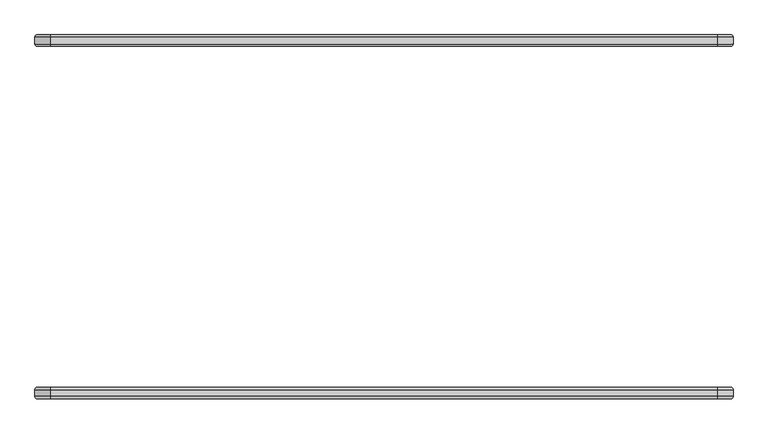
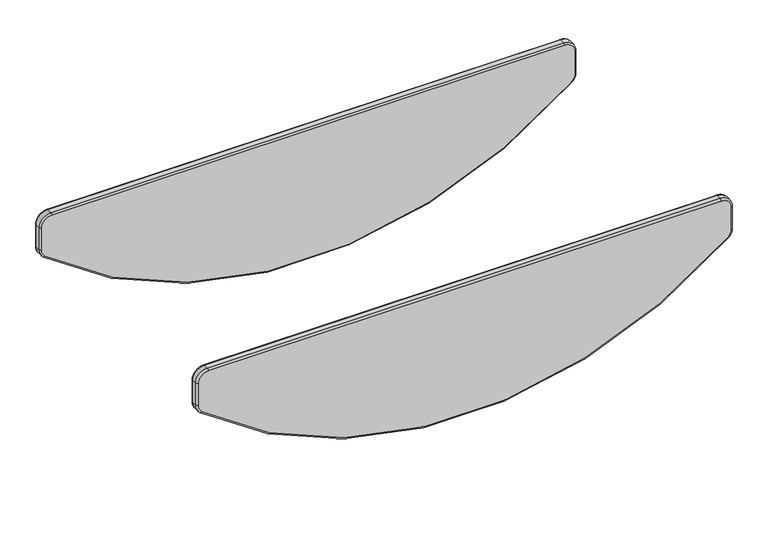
"""IFC4 building model written with IfcOpenShell, lengths in millimetres: furniture geometry, SSL-Childcraft_Outdoor-Rocking_Boat : 2163503."""

from ifc_helpers import new_model, si_unit, point, frame, origin, place, context, project, spatial, circle_curve, ellipse_curve, trimmed, source, transform, mapped, element, save
from ifc_brep_helpers import plane_surface, cylinder_surface, revolved_surface, advanced_brep


def furniture_0a677c5e(model_context):
    return source(origin(), model_context, "Body", "AdvancedBrep", [
        advanced_brep(
        [(558.8, 285.75, 301.0671507), (-558.8, 285.75, 301.0671507), (-580.4671507, 285.75, 279.4), (-580.4671507, 285.75, 228.47336), (-572.7109364, 285.75, 211.861579), (572.7109364, 285.75, 211.861579), (580.4671507, 285.75, 228.47336), (580.4671507, 285.75, 279.4), (-580.3517377, 304.8, 228.47336), (-580.3517377, 304.8, 279.4), (-558.8, 304.8, 300.9517377), (558.8, 304.8, 300.9517377), (580.3517377, 304.8, 279.4), (580.3517377, 304.8, 228.47336), (572.636838, 304.8, 211.9500639), (-572.636838, 304.8, 211.9500639), (584.2, 300.9517377, 279.4), (558.8, 300.9517377, 304.8), (558.8, 289.4828493, 304.8), (584.2, 289.4828493, 279.4), (584.2, 289.4828493, 228.47336), (584.2, 300.9517377, 228.47336), (575.1075335, 289.4828493, 208.9996764), (575.1075335, 300.9517377, 208.9996764), (-575.1075335, 289.4828493, 208.9996764), (-575.1075335, 300.9517377, 208.9996764), (-584.2, 289.4828493, 228.47336), (-584.2, 300.9517377, 228.47336), (-584.2, 289.4828493, 279.4), (-584.2, 300.9517377, 279.4), (-558.8, 289.4828493, 304.8), (-558.8, 300.9517377, 304.8)],
        [
            (0, 1),
            (1, 2, circle_curve(frame((-558.8, 285.75, 279.4), z_axis=(0.0, -1.0, 0.0), x_axis=(-1.0, 0.0, 0.0)), 21.6671507)),
            (2, 3),
            (3, 4, circle_curve(frame((-558.8, 285.75, 228.47336), z_axis=(0.0, -1.0, 0.0), x_axis=(-0.64202887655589, 0.0, -0.76668045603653)), 21.6671507)),
            (4, 5, circle_curve(frame((0.0, 285.75, 895.7658362), z_axis=(0.0, -1.0, 0.0), x_axis=(0.6420288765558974, 0.0, -0.766680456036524)), 892.0329869)),
            (5, 6, circle_curve(frame((558.8, 285.75, 228.47336), z_axis=(0.0, -1.0, 0.0), x_axis=(1.0, 0.0, 0.0)), 21.6671507)),
            (6, 7),
            (7, 0, circle_curve(frame((558.8, 285.75, 279.4), z_axis=(0.0, -1.0, 0.0), x_axis=(0.0, 0.0, 1.0)), 21.6671507)),
            (8, 9),
            (9, 10, circle_curve(frame((-558.8, 304.8, 279.4), z_axis=(0.0, 1.0, 0.0), x_axis=(-1.0, 0.0, 0.0)), 21.5517377)),
            (10, 11),
            (11, 12, circle_curve(frame((558.8, 304.8, 279.4), z_axis=(0.0, 1.0, 0.0), x_axis=(0.0, 0.0, 1.0)), 21.5517377)),
            (12, 13),
            (13, 14, circle_curve(frame((558.8, 304.8, 228.47336), z_axis=(0.0, 1.0, 0.0), x_axis=(1.0, 0.0, 0.0)), 21.5517377)),
            (14, 15, circle_curve(frame((0.0, 304.8, 895.7658362), z_axis=(0.0, 1.0, 0.0), x_axis=(0.6420288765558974, 0.0, -0.766680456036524)), 891.9175739)),
            (15, 8, circle_curve(frame((-558.8, 304.8, 228.47336), z_axis=(0.0, 1.0, 0.0), x_axis=(-0.64202887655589, 0.0, -0.76668045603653)), 21.5517377)),
            (16, 17, circle_curve(frame((558.8, 300.9517377, 279.4), z_axis=(0.0, -1.0, 0.0), x_axis=(0.0, 0.0, 1.0)), 25.4)),
            (17, 18),
            (18, 19, circle_curve(frame((558.8, 289.4828493, 279.4), z_axis=(0.0, 1.0, 0.0), x_axis=(0.0, 0.0, 1.0)), 25.4)),
            (19, 16),
            (19, 20),
            (20, 21),
            (21, 16),
            (20, 22, circle_curve(frame((558.8, 289.4828493, 228.47336), z_axis=(0.0, 1.0, 0.0), x_axis=(1.0, 0.0, 0.0)), 25.4)),
            (22, 23),
            (23, 21, circle_curve(frame((558.8, 300.9517377, 228.47336), z_axis=(0.0, -1.0, 0.0), x_axis=(1.0, 0.0, 0.0)), 25.4)),
            (22, 24, circle_curve(frame((0.0, 289.4828493, 895.7658362), z_axis=(0.0, 1.0, 0.0), x_axis=(0.6420288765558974, 0.0, -0.766680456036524)), 895.7658362)),
            (24, 25),
            (25, 23, circle_curve(frame((0.0, 300.9517377, 895.7658362), z_axis=(0.0, -1.0, 0.0), x_axis=(0.6420288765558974, 0.0, -0.766680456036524)), 895.7658362)),
            (24, 26, circle_curve(frame((-558.8, 289.4828493, 228.47336), z_axis=(0.0, 1.0, 0.0), x_axis=(-0.64202887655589, 0.0, -0.76668045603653)), 25.4)),
            (26, 27),
            (27, 25, circle_curve(frame((-558.8, 300.9517377, 228.47336), z_axis=(0.0, -1.0, 0.0), x_axis=(-0.64202887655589, 0.0, -0.76668045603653)), 25.4)),
            (26, 28),
            (28, 29),
            (29, 27),
            (28, 30, circle_curve(frame((-558.8, 289.4828493, 279.4), z_axis=(0.0, 1.0, 0.0), x_axis=(-1.0, 0.0, 0.0)), 25.4)),
            (30, 31),
            (31, 29, circle_curve(frame((-558.8, 300.9517377, 279.4), z_axis=(0.0, -1.0, 0.0), x_axis=(-1.0, 0.0, 0.0)), 25.4)),
            (17, 31),
            (30, 18),
            (16, 12, circle_curve(frame((580.3517377, 300.9517377, 279.4), z_axis=(0.0, 0.0, 1.0), x_axis=(1.0, 0.0, 0.0)), 3.8482623)),
            (11, 17, circle_curve(frame((558.8, 300.9517377, 300.9517377), z_axis=(1.0, 0.0, 0.0), x_axis=(0.0, 0.0, 1.0)), 3.8482623)),
            (21, 13, circle_curve(frame((580.3517377, 300.9517377, 228.47336), z_axis=(0.0, 0.0, 1.0), x_axis=(1.0, 0.0, 0.0)), 3.8482623)),
            (23, 14, circle_curve(frame((572.636838, 300.9517377, 211.9500639), z_axis=(0.7666804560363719, 0.0, 0.6420288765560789), x_axis=(0.6420288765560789, 0.0, -0.7666804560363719)), 3.8482623)),
            (25, 15, circle_curve(frame((-572.636838, 300.9517377, 211.9500639), z_axis=(0.7666804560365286, 0.0, -0.6420288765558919), x_axis=(-0.6420288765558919, 0.0, -0.7666804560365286)), 3.8482623)),
            (27, 8, circle_curve(frame((-580.3517377, 300.9517377, 228.47336), z_axis=(0.0, 0.0, -0.9999999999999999), x_axis=(-0.9999999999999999, 0.0, 0.0)), 3.8482623)),
            (29, 9, circle_curve(frame((-580.3517377, 300.9517377, 279.4), z_axis=(0.0, 0.0, -1.0), x_axis=(-1.0, 0.0, 0.0)), 3.8482623)),
            (31, 10, circle_curve(frame((-558.8, 300.9517377, 300.9517377), z_axis=(-1.0, 0.0, 0.0), x_axis=(0.0, 0.0, 1.0)), 3.8482623)),
            (18, 0, circle_curve(frame((558.8, 289.4828493, 301.0671507), z_axis=(1.0, 0.0, 0.0), x_axis=(0.0, 0.0, 1.0)), 3.7328493)),
            (7, 19, circle_curve(frame((580.4671507, 289.4828493, 279.4), z_axis=(0.0, 0.0, 1.0), x_axis=(1.0, 0.0, 0.0)), 3.7328493)),
            (6, 20, circle_curve(frame((580.4671507, 289.4828493, 228.47336), z_axis=(0.0, 0.0, 1.0), x_axis=(1.0, 0.0, 0.0)), 3.7328493)),
            (5, 22, circle_curve(frame((572.7109364, 289.4828493, 211.861579), z_axis=(0.7666804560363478, 0.0, 0.6420288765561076), x_axis=(0.6420288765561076, 0.0, -0.7666804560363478)), 3.7328493)),
            (4, 24, circle_curve(frame((-572.7109364, 289.4828493, 211.861579), z_axis=(0.7666804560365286, 0.0, -0.6420288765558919), x_axis=(-0.6420288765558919, 0.0, -0.7666804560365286)), 3.7328493)),
            (3, 26, circle_curve(frame((-580.4671507, 289.4828493, 228.47336), z_axis=(0.0, 0.0, -1.0), x_axis=(-1.0, 0.0, 0.0)), 3.7328493)),
            (2, 28, circle_curve(frame((-580.4671507, 289.4828493, 279.4), z_axis=(0.0, 0.0, -1.0), x_axis=(-1.0, 0.0, 0.0)), 3.7328493)),
            (1, 30, circle_curve(frame((-558.8, 289.4828493, 301.0671507), z_axis=(-1.0, 0.0, 0.0), x_axis=(0.0, 0.0, 1.0)), 3.7328493)),
        ],
        [
            plane_surface(frame((-538.95625, 285.75, 279.4), z_axis=(0.0, -1.0, 0.0), x_axis=(0.0, 0.0, 1.0))),
            plane_surface(frame((-538.95625, 304.8, 279.4), z_axis=(0.0, 1.0, 0.0), x_axis=(0.0, 0.0, -1.0))),
            cylinder_surface(frame((558.8, 0.0, 279.4), z_axis=(0.0, 1.0, 0.0), x_axis=(0.0, 0.0, 1.0)), 25.4),
            plane_surface(frame((584.2, 289.4828493, 279.4), z_axis=(1.0, 0.0, 0.0), x_axis=(0.0, 0.0, -1.0))),
            cylinder_surface(frame((558.8, 0.0, 228.47336), z_axis=(0.0, 1.0, 0.0), x_axis=(1.0, 0.0, 0.0)), 25.4),
            cylinder_surface(frame((0.0, 0.0, 895.7658362), z_axis=(0.0, 1.0, 0.0), x_axis=(0.6420288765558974, 0.0, -0.766680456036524)), 895.7658362),
            cylinder_surface(frame((-558.8, 0.0, 228.47336), z_axis=(0.0, 1.0, 0.0), x_axis=(-0.64202887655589, 0.0, -0.76668045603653)), 25.4),
            plane_surface(frame((-584.2, 289.4828493, 228.47336), z_axis=(-1.0, 0.0, 0.0), x_axis=(0.0, 0.0, 1.0))),
            cylinder_surface(frame((-558.8, 0.0, 279.4), z_axis=(0.0, 1.0, 0.0), x_axis=(-1.0, 0.0, 0.0)), 25.4),
            plane_surface(frame((-558.8, 289.4828493, 304.8), z_axis=(0.0, 0.0, 1.0), x_axis=(1.0, 0.0, 0.0))),
            revolved_surface(trimmed(ellipse_curve(frame((558.8, 300.9517377, 300.9517377), z_axis=(-1.0, 0.0, 0.0), x_axis=(0.0, 0.0, 1.0)), 3.8482623, 3.8482623), [point((558.8, 300.9517377, 304.8))], [point((558.8, 304.8, 300.9517377))], True, "CARTESIAN"), (558.8, 0.0, 279.4), (0.0, 1.0, 0.0)),
            cylinder_surface(frame((580.3517377, 300.9517377, 279.4), z_axis=(0.0, 0.0, 1.0), x_axis=(1.0, 0.0, 0.0)), 3.8482623),
            revolved_surface(trimmed(ellipse_curve(frame((580.3517377, 300.9517377, 228.47336), z_axis=(0.0, 0.0, 1.0), x_axis=(1.0, 0.0, 0.0)), 3.8482623, 3.8482623), [point((584.2, 300.9517377, 228.47336))], [point((580.3517377, 304.8, 228.47336))], True, "CARTESIAN"), (558.8, 0.0, 228.47336), (0.0, 1.0, 0.0)),
            revolved_surface(trimmed(ellipse_curve(frame((572.636838, 300.9517377, 211.9500639), z_axis=(0.7666804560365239, 0.0, 0.6420288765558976), x_axis=(0.6420288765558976, 0.0, -0.7666804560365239)), 3.8482623, 3.8482623), [point((575.1075335, 300.9517377, 208.9996764))], [point((572.636838, 304.8, 211.9500639))], True, "CARTESIAN"), (0.0, 0.0, 895.7658362), (0.0, 1.0, 0.0)),
            revolved_surface(trimmed(ellipse_curve(frame((-572.636838, 300.9517377, 211.9500639), z_axis=(0.7666804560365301, 0.0, -0.6420288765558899), x_axis=(-0.6420288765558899, 0.0, -0.7666804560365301)), 3.8482623, 3.8482623), [point((-575.1075335, 300.9517377, 208.9996764))], [point((-572.636838, 304.8, 211.9500639))], True, "CARTESIAN"), (-558.8, 0.0, 228.47336), (0.0, 1.0, 0.0)),
            cylinder_surface(frame((-580.3517377, 300.9517377, 228.47336), z_axis=(0.0, 0.0, -1.0), x_axis=(-1.0, 0.0, 0.0)), 3.8482623),
            revolved_surface(trimmed(ellipse_curve(frame((-580.3517377, 300.9517377, 279.4), z_axis=(0.0, 0.0, -1.0), x_axis=(-1.0, 0.0, 0.0)), 3.8482623, 3.8482623), [point((-584.2, 300.9517377, 279.4))], [point((-580.3517377, 304.8, 279.4))], True, "CARTESIAN"), (-558.8, 0.0, 279.4), (0.0, 1.0, 0.0)),
            cylinder_surface(frame((-558.8, 300.9517377, 300.9517377), z_axis=(-1.0, 0.0, 0.0), x_axis=(0.0, 0.0, 1.0)), 3.8482623),
            revolved_surface(trimmed(ellipse_curve(frame((558.8, 289.4828493, 301.0671507), z_axis=(-1.0, 0.0, 0.0), x_axis=(0.0, 0.0, 1.0)), 3.7328493, 3.7328493), [point((558.8, 285.75, 301.0671507))], [point((558.8, 289.4828493, 304.8))], True, "CARTESIAN"), (558.8, 0.0, 279.4), (0.0, 1.0, 0.0)),
            cylinder_surface(frame((580.4671507, 289.4828493, 279.4), z_axis=(0.0, 0.0, 1.0), x_axis=(1.0, 0.0, 0.0)), 3.7328493),
            revolved_surface(trimmed(ellipse_curve(frame((580.4671507, 289.4828493, 228.47336), z_axis=(0.0, 0.0, 1.0), x_axis=(1.0, 0.0, 0.0)), 3.7328493, 3.7328493), [point((580.4671507, 285.75, 228.47336))], [point((584.2, 289.4828493, 228.47336))], True, "CARTESIAN"), (558.8, 0.0, 228.47336), (0.0, 1.0, 0.0)),
            revolved_surface(trimmed(ellipse_curve(frame((572.7109364, 289.4828493, 211.861579), z_axis=(0.7666804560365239, 0.0, 0.6420288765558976), x_axis=(0.6420288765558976, 0.0, -0.7666804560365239)), 3.7328493, 3.7328493), [point((572.7109364, 285.75, 211.861579))], [point((575.1075335, 289.4828493, 208.9996764))], True, "CARTESIAN"), (0.0, 0.0, 895.7658362), (0.0, 1.0, 0.0)),
            revolved_surface(trimmed(ellipse_curve(frame((-572.7109364, 289.4828493, 211.861579), z_axis=(0.7666804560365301, 0.0, -0.6420288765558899), x_axis=(-0.6420288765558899, 0.0, -0.7666804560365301)), 3.7328493, 3.7328493), [point((-572.7109364, 285.75, 211.861579))], [point((-575.1075335, 289.4828493, 208.9996764))], True, "CARTESIAN"), (-558.8, 0.0, 228.47336), (0.0, 1.0, 0.0)),
            cylinder_surface(frame((-580.4671507, 289.4828493, 228.47336), z_axis=(0.0, 0.0, -1.0), x_axis=(-1.0, 0.0, 0.0)), 3.7328493),
            revolved_surface(trimmed(ellipse_curve(frame((-580.4671507, 289.4828493, 279.4), z_axis=(0.0, 0.0, -1.0), x_axis=(-1.0, 0.0, 0.0)), 3.7328493, 3.7328493), [point((-580.4671507, 285.75, 279.4))], [point((-584.2, 289.4828493, 279.4))], True, "CARTESIAN"), (-558.8, 0.0, 279.4), (0.0, 1.0, 0.0)),
            cylinder_surface(frame((-558.8, 289.4828493, 301.0671507), z_axis=(-1.0, 0.0, 0.0), x_axis=(0.0, 0.0, 1.0)), 3.7328493),
        ],
        [
            (0, [[1, 2, 3, 4, 5, 6, 7, 8]]),
            (1, [[9, 10, 11, 12, 13, 14, 15, 16]]),
            (2, [[17, 18, 19, 20]]),
            (3, [[-20, 21, 22, 23]]),
            (4, [[-22, 24, 25, 26]]),
            (5, [[-25, 27, 28, 29]]),
            (6, [[-28, 30, 31, 32]]),
            (7, [[-31, 33, 34, 35]]),
            (8, [[-34, 36, 37, 38]]),
            (9, [[-18, 39, -37, 40]]),
            (10, [[-17, 41, -12, 42]]),
            (11, [[-23, 43, -13, -41]]),
            (12, [[-26, 44, -14, -43]]),
            (13, [[-29, 45, -15, -44]]),
            (14, [[-32, 46, -16, -45]]),
            (15, [[-35, 47, -9, -46]]),
            (16, [[-38, 48, -10, -47]]),
            (17, [[-39, -42, -11, -48]]),
            (18, [[-19, 49, -8, 50]]),
            (19, [[-21, -50, -7, 51]]),
            (20, [[-24, -51, -6, 52]]),
            (21, [[-27, -52, -5, 53]]),
            (22, [[-30, -53, -4, 54]]),
            (23, [[-33, -54, -3, 55]]),
            (24, [[-36, -55, -2, 56]]),
            (25, [[-40, -56, -1, -49]]),
        ],
    ),
        advanced_brep(
        [(580.4671507, -285.75, 279.4), (558.8, -285.75, 301.0671507), (558.8, -289.4828493, 304.8), (584.2, -289.4828493, 279.4), (584.2, -300.9517377, 279.4), (558.8, -300.9517377, 304.8), (558.8, -304.8, 300.9517377), (580.3517377, -304.8, 279.4), (584.2, -289.4828493, 228.47336), (580.4671507, -285.75, 228.47336), (580.3517377, -304.8, 228.47336), (584.2, -300.9517377, 228.47336), (575.1075335, -289.4828493, 208.9996764), (572.7109364, -285.75, 211.861579), (572.636838, -304.8, 211.9500639), (575.1075335, -300.9517377, 208.9996764), (-575.1075335, -289.4828493, 208.9996764), (-572.7109364, -285.75, 211.861579), (-572.636838, -304.8, 211.9500639), (-575.1075335, -300.9517377, 208.9996764), (-584.2, -289.4828493, 228.47336), (-580.4671507, -285.75, 228.47336), (-580.3517377, -304.8, 228.47336), (-584.2, -300.9517377, 228.47336), (-584.2, -289.4828493, 279.4), (-580.4671507, -285.75, 279.4), (-580.3517377, -304.8, 279.4), (-584.2, -300.9517377, 279.4), (-558.8, -289.4828493, 304.8), (-558.8, -285.75, 301.0671507), (-558.8, -304.8, 300.9517377), (-558.8, -300.9517377, 304.8)],
        [
            (0, 1, circle_curve(frame((558.8, -285.75, 279.4), z_axis=(0.0, -1.0, 0.0), x_axis=(0.0, 0.0, 1.0)), 21.6671507)),
            (1, 2, circle_curve(frame((558.8, -289.4828493, 301.0671507), z_axis=(1.0, 0.0, 0.0), x_axis=(0.0, 0.0, 1.0)), 3.7328493)),
            (2, 3, circle_curve(frame((558.8, -289.4828493, 279.4), z_axis=(0.0, 1.0, 0.0), x_axis=(0.0, 0.0, 1.0)), 25.4)),
            (3, 0, circle_curve(frame((580.4671507, -289.4828493, 279.4), z_axis=(0.0, 0.0, 1.0), x_axis=(1.0, 0.0, 0.0)), 3.7328493)),
            (4, 5, circle_curve(frame((558.8, -300.9517377, 279.4), z_axis=(0.0, -1.0, 0.0), x_axis=(0.0, 0.0, 1.0)), 25.4)),
            (5, 6, circle_curve(frame((558.8, -300.9517377, 300.9517377), z_axis=(1.0, 0.0, 0.0), x_axis=(0.0, 0.0, 1.0)), 3.8482623)),
            (6, 7, circle_curve(frame((558.8, -304.8, 279.4), z_axis=(0.0, 1.0, 0.0), x_axis=(0.0, 0.0, 1.0)), 21.5517377)),
            (7, 4, circle_curve(frame((580.3517377, -300.9517377, 279.4), z_axis=(0.0, 0.0, 1.0), x_axis=(1.0, 0.0, 0.0)), 3.8482623)),
            (2, 5),
            (4, 3),
            (3, 8),
            (8, 9, circle_curve(frame((580.4671507, -289.4828493, 228.47336), z_axis=(0.0, 0.0, 1.0), x_axis=(1.0, 0.0, 0.0)), 3.7328493)),
            (9, 0),
            (7, 10),
            (10, 11, circle_curve(frame((580.3517377, -300.9517377, 228.47336), z_axis=(0.0, 0.0, 1.0), x_axis=(1.0, 0.0, 0.0)), 3.8482623)),
            (11, 4),
            (11, 8),
            (8, 12, circle_curve(frame((558.8, -289.4828493, 228.47336), z_axis=(0.0, 1.0, 0.0), x_axis=(1.0, 0.0, 0.0)), 25.4)),
            (12, 13, circle_curve(frame((572.7109364, -289.4828493, 211.861579), z_axis=(0.7666804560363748, 0.0, 0.6420288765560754), x_axis=(0.6420288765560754, 0.0, -0.7666804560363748)), 3.7328493)),
            (13, 9, circle_curve(frame((558.8, -285.75, 228.47336), z_axis=(0.0, -1.0, 0.0), x_axis=(1.0, 0.0, 0.0)), 21.6671507)),
            (10, 14, circle_curve(frame((558.8, -304.8, 228.47336), z_axis=(0.0, 1.0, 0.0), x_axis=(1.0, 0.0, 0.0)), 21.5517377)),
            (14, 15, circle_curve(frame((572.636838, -300.9517377, 211.9500639), z_axis=(0.7666804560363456, 0.0, 0.6420288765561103), x_axis=(0.6420288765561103, 0.0, -0.7666804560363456)), 3.8482623)),
            (15, 11, circle_curve(frame((558.8, -300.9517377, 228.47336), z_axis=(0.0, -1.0, 0.0), x_axis=(1.0, 0.0, 0.0)), 25.4)),
            (15, 12),
            (12, 16, circle_curve(frame((0.0, -289.4828493, 895.7658362), z_axis=(0.0, 1.0, 0.0), x_axis=(0.6420288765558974, 0.0, -0.766680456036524)), 895.7658362)),
            (16, 17, circle_curve(frame((-572.7109364, -289.4828493, 211.861579), z_axis=(0.7666804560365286, 0.0, -0.6420288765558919), x_axis=(-0.6420288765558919, 0.0, -0.7666804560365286)), 3.7328493)),
            (17, 13, circle_curve(frame((0.0, -285.75, 895.7658362), z_axis=(0.0, -1.0, 0.0), x_axis=(0.6420288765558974, 0.0, -0.766680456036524)), 892.0329869)),
            (14, 18, circle_curve(frame((0.0, -304.8, 895.7658362), z_axis=(0.0, 1.0, 0.0), x_axis=(0.6420288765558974, 0.0, -0.766680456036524)), 891.9175739)),
            (18, 19, circle_curve(frame((-572.636838, -300.9517377, 211.9500639), z_axis=(0.7666804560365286, 0.0, -0.6420288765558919), x_axis=(-0.6420288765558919, 0.0, -0.7666804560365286)), 3.8482623)),
            (19, 15, circle_curve(frame((0.0, -300.9517377, 895.7658362), z_axis=(0.0, -1.0, 0.0), x_axis=(0.6420288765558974, 0.0, -0.766680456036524)), 895.7658362)),
            (19, 16),
            (16, 20, circle_curve(frame((-558.8, -289.4828493, 228.47336), z_axis=(0.0, 1.0, 0.0), x_axis=(-0.64202887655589, 0.0, -0.76668045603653)), 25.4)),
            (20, 21, circle_curve(frame((-580.4671507, -289.4828493, 228.47336), z_axis=(0.0, 0.0, -1.0), x_axis=(-1.0, 0.0, 0.0)), 3.7328493)),
            (21, 17, circle_curve(frame((-558.8, -285.75, 228.47336), z_axis=(0.0, -1.0, 0.0), x_axis=(-0.64202887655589, 0.0, -0.76668045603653)), 21.6671507)),
            (18, 22, circle_curve(frame((-558.8, -304.8, 228.47336), z_axis=(0.0, 1.0, 0.0), x_axis=(-0.64202887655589, 0.0, -0.76668045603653)), 21.5517377)),
            (22, 23, circle_curve(frame((-580.3517377, -300.9517377, 228.47336), z_axis=(0.0, 0.0, -1.0), x_axis=(-1.0, 0.0, 0.0)), 3.8482623)),
            (23, 19, circle_curve(frame((-558.8, -300.9517377, 228.47336), z_axis=(0.0, -1.0, 0.0), x_axis=(-0.64202887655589, 0.0, -0.76668045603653)), 25.4)),
            (23, 20),
            (20, 24),
            (24, 25, circle_curve(frame((-580.4671507, -289.4828493, 279.4), z_axis=(0.0, 0.0, -1.0), x_axis=(-1.0, 0.0, 0.0)), 3.7328493)),
            (25, 21),
            (22, 26),
            (26, 27, circle_curve(frame((-580.3517377, -300.9517377, 279.4), z_axis=(0.0, 0.0, -1.0), x_axis=(-1.0, 0.0, 0.0)), 3.8482623)),
            (27, 23),
            (27, 24),
            (24, 28, circle_curve(frame((-558.8, -289.4828493, 279.4), z_axis=(0.0, 1.0, 0.0), x_axis=(-1.0, 0.0, 0.0)), 25.4)),
            (28, 29, circle_curve(frame((-558.8, -289.4828493, 301.0671507), z_axis=(-1.0, 0.0, 0.0), x_axis=(0.0, 0.0, 1.0)), 3.7328493)),
            (29, 25, circle_curve(frame((-558.8, -285.75, 279.4), z_axis=(0.0, -1.0, 0.0), x_axis=(-1.0, 0.0, 0.0)), 21.6671507)),
            (26, 30, circle_curve(frame((-558.8, -304.8, 279.4), z_axis=(0.0, 1.0, 0.0), x_axis=(-1.0, 0.0, 0.0)), 21.5517377)),
            (30, 31, circle_curve(frame((-558.8, -300.9517377, 300.9517377), z_axis=(-1.0, 0.0, 0.0), x_axis=(0.0, 0.0, 1.0)), 3.8482623)),
            (31, 27, circle_curve(frame((-558.8, -300.9517377, 279.4), z_axis=(0.0, -1.0, 0.0), x_axis=(-1.0, 0.0, 0.0)), 25.4)),
            (31, 28),
            (1, 29),
            (28, 2),
            (6, 30),
            (5, 31),
        ],
        [
            revolved_surface(trimmed(ellipse_curve(frame((558.8, -289.4828493, 301.0671507), z_axis=(-1.0, 0.0, 0.0), x_axis=(0.0, 0.0, 1.0)), 3.7328493, 3.7328493), [point((558.8, -289.4828493, 304.8))], [point((558.8, -285.75, 301.0671507))], True, "CARTESIAN"), (558.8, 0.0, 279.4), (0.0, 1.0, 0.0)),
            revolved_surface(trimmed(ellipse_curve(frame((558.8, -300.9517377, 300.9517377), z_axis=(-1.0, 0.0, 0.0), x_axis=(0.0, 0.0, 1.0)), 3.8482623, 3.8482623), [point((558.8, -304.8, 300.9517377))], [point((558.8, -300.9517377, 304.8))], True, "CARTESIAN"), (558.8, 0.0, 279.4), (0.0, 1.0, 0.0)),
            cylinder_surface(frame((558.8, 0.0, 279.4), z_axis=(0.0, 1.0, 0.0), x_axis=(0.0, 0.0, 1.0)), 25.4),
            cylinder_surface(frame((580.4671507, -289.4828493, 279.4), z_axis=(0.0, 0.0, 1.0), x_axis=(1.0, 0.0, 0.0)), 3.7328493),
            cylinder_surface(frame((580.3517377, -300.9517377, 279.4), z_axis=(0.0, 0.0, 1.0), x_axis=(1.0, 0.0, 0.0)), 3.8482623),
            plane_surface(frame((584.2, -300.9517377, 279.4), z_axis=(1.0, 0.0, 0.0), x_axis=(0.0, 0.0, -1.0))),
            revolved_surface(trimmed(ellipse_curve(frame((580.4671507, -289.4828493, 228.47336), z_axis=(0.0, 0.0, 1.0), x_axis=(1.0, 0.0, 0.0)), 3.7328493, 3.7328493), [point((584.2, -289.4828493, 228.47336))], [point((580.4671507, -285.75, 228.47336))], True, "CARTESIAN"), (558.8, 0.0, 228.47336), (0.0, 1.0, 0.0)),
            revolved_surface(trimmed(ellipse_curve(frame((580.3517377, -300.9517377, 228.47336), z_axis=(0.0, 0.0, 1.0), x_axis=(1.0, 0.0, 0.0)), 3.8482623, 3.8482623), [point((580.3517377, -304.8, 228.47336))], [point((584.2, -300.9517377, 228.47336))], True, "CARTESIAN"), (558.8, 0.0, 228.47336), (0.0, 1.0, 0.0)),
            cylinder_surface(frame((558.8, 0.0, 228.47336), z_axis=(0.0, 1.0, 0.0), x_axis=(1.0, 0.0, 0.0)), 25.4),
            revolved_surface(trimmed(ellipse_curve(frame((572.7109364, -289.4828493, 211.861579), z_axis=(0.7666804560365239, 0.0, 0.6420288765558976), x_axis=(0.6420288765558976, 0.0, -0.7666804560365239)), 3.7328493, 3.7328493), [point((575.1075335, -289.4828493, 208.9996764))], [point((572.7109364, -285.75, 211.861579))], True, "CARTESIAN"), (0.0, 0.0, 895.7658362), (0.0, 1.0, 0.0)),
            revolved_surface(trimmed(ellipse_curve(frame((572.636838, -300.9517377, 211.9500639), z_axis=(0.7666804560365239, 0.0, 0.6420288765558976), x_axis=(0.6420288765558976, 0.0, -0.7666804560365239)), 3.8482623, 3.8482623), [point((572.636838, -304.8, 211.9500639))], [point((575.1075335, -300.9517377, 208.9996764))], True, "CARTESIAN"), (0.0, 0.0, 895.7658362), (0.0, 1.0, 0.0)),
            cylinder_surface(frame((0.0, 0.0, 895.7658362), z_axis=(0.0, 1.0, 0.0), x_axis=(0.6420288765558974, 0.0, -0.766680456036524)), 895.7658362),
            revolved_surface(trimmed(ellipse_curve(frame((-572.7109364, -289.4828493, 211.861579), z_axis=(0.7666804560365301, 0.0, -0.6420288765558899), x_axis=(-0.6420288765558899, 0.0, -0.7666804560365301)), 3.7328493, 3.7328493), [point((-575.1075335, -289.4828493, 208.9996764))], [point((-572.7109364, -285.75, 211.861579))], True, "CARTESIAN"), (-558.8, 0.0, 228.47336), (0.0, 1.0, 0.0)),
            revolved_surface(trimmed(ellipse_curve(frame((-572.636838, -300.9517377, 211.9500639), z_axis=(0.7666804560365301, 0.0, -0.6420288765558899), x_axis=(-0.6420288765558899, 0.0, -0.7666804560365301)), 3.8482623, 3.8482623), [point((-572.636838, -304.8, 211.9500639))], [point((-575.1075335, -300.9517377, 208.9996764))], True, "CARTESIAN"), (-558.8, 0.0, 228.47336), (0.0, 1.0, 0.0)),
            cylinder_surface(frame((-558.8, 0.0, 228.47336), z_axis=(0.0, 1.0, 0.0), x_axis=(-0.64202887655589, 0.0, -0.76668045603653)), 25.4),
            cylinder_surface(frame((-580.4671507, -289.4828493, 228.47336), z_axis=(0.0, 0.0, -1.0), x_axis=(-1.0, 0.0, 0.0)), 3.7328493),
            cylinder_surface(frame((-580.3517377, -300.9517377, 228.47336), z_axis=(0.0, 0.0, -1.0), x_axis=(-1.0, 0.0, 0.0)), 3.8482623),
            plane_surface(frame((-584.2, -300.9517377, 228.47336), z_axis=(-1.0, 0.0, 0.0), x_axis=(0.0, 0.0, 1.0))),
            revolved_surface(trimmed(ellipse_curve(frame((-580.4671507, -289.4828493, 279.4), z_axis=(0.0, 0.0, -1.0), x_axis=(-1.0, 0.0, 0.0)), 3.7328493, 3.7328493), [point((-584.2, -289.4828493, 279.4))], [point((-580.4671507, -285.75, 279.4))], True, "CARTESIAN"), (-558.8, 0.0, 279.4), (0.0, 1.0, 0.0)),
            revolved_surface(trimmed(ellipse_curve(frame((-580.3517377, -300.9517377, 279.4), z_axis=(0.0, 0.0, -1.0), x_axis=(-1.0, 0.0, 0.0)), 3.8482623, 3.8482623), [point((-580.3517377, -304.8, 279.4))], [point((-584.2, -300.9517377, 279.4))], True, "CARTESIAN"), (-558.8, 0.0, 279.4), (0.0, 1.0, 0.0)),
            cylinder_surface(frame((-558.8, 0.0, 279.4), z_axis=(0.0, 1.0, 0.0), x_axis=(-1.0, 0.0, 0.0)), 25.4),
            cylinder_surface(frame((-558.8, -289.4828493, 301.0671507), z_axis=(-1.0, 0.0, 0.0), x_axis=(0.0, 0.0, 1.0)), 3.7328493),
            plane_surface(frame((-558.8, -285.75, 301.0671507), z_axis=(0.0, 1.0, 0.0), x_axis=(1.0, 0.0, 0.0))),
            plane_surface(frame((-558.8, -304.8, 299.24375), z_axis=(0.0, -1.0, 0.0), x_axis=(1.0, 0.0, 0.0))),
            cylinder_surface(frame((-558.8, -300.9517377, 300.9517377), z_axis=(-1.0, 0.0, 0.0), x_axis=(0.0, 0.0, 1.0)), 3.8482623),
            plane_surface(frame((-558.8, -300.9517377, 304.8), z_axis=(0.0, 0.0, 1.0), x_axis=(1.0, 0.0, 0.0))),
        ],
        [
            (0, [[1, 2, 3, 4]]),
            (1, [[5, 6, 7, 8]]),
            (2, [[-3, 9, -5, 10]]),
            (3, [[-4, 11, 12, 13]]),
            (4, [[-8, 14, 15, 16]]),
            (5, [[-10, -16, 17, -11]]),
            (6, [[-12, 18, 19, 20]]),
            (7, [[-15, 21, 22, 23]]),
            (8, [[-17, -23, 24, -18]]),
            (9, [[-19, 25, 26, 27]]),
            (10, [[-22, 28, 29, 30]]),
            (11, [[-24, -30, 31, -25]]),
            (12, [[-26, 32, 33, 34]]),
            (13, [[-29, 35, 36, 37]]),
            (14, [[-31, -37, 38, -32]]),
            (15, [[-33, 39, 40, 41]]),
            (16, [[-36, 42, 43, 44]]),
            (17, [[-38, -44, 45, -39]]),
            (18, [[-40, 46, 47, 48]]),
            (19, [[-43, 49, 50, 51]]),
            (20, [[-45, -51, 52, -46]]),
            (21, [[-2, 53, -47, 54]]),
            (22, [[-1, -13, -20, -27, -34, -41, -48, -53]]),
            (23, [[-7, 55, -49, -42, -35, -28, -21, -14]]),
            (24, [[-6, 56, -50, -55]]),
            (25, [[-9, -54, -52, -56]]),
        ],
    ),
    ])


if __name__ == "__main__":
    model = new_model("IFC4")
    model_context = context("Model", 3, world=origin())
    ifc_project = project(units=[si_unit("LENGTHUNIT", "METRE", prefix="MILLI")], contexts=[model_context])
    site = spatial("IfcSite", under=ifc_project)
    building = spatial("IfcBuilding", under=site)
    placement = place(None, origin())
    furniture_shape = furniture_0a677c5e(model_context)
    element("IfcFurniture", 1, ObjectType="SSL-Childcraft_Outdoor-Rocking_Boat : 2163503", at=placement, inside=building, context=model_context, shape_type="MappedRepresentation", body=[
        mapped(furniture_shape, transform((0.0, 0.0, 0.0), x_axis=(1.0, 0.0, 0.0), y_axis=(0.0, 1.0, 0.0), z_axis=(0.0, 0.0, 1.0))),
    ])
    save(model, "model.ifc")
